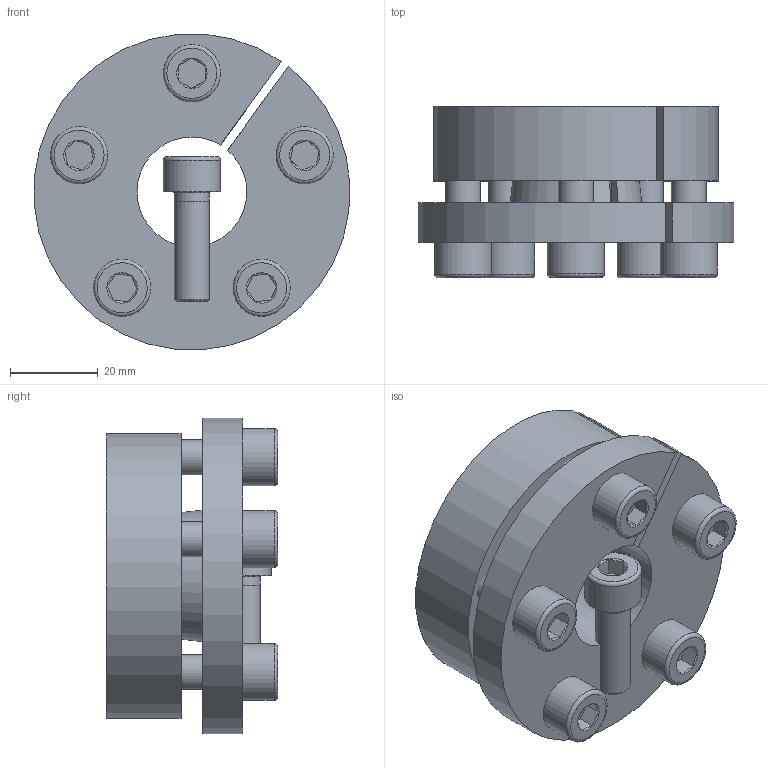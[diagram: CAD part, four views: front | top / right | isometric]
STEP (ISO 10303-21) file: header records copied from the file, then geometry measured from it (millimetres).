
FILE_DESCRIPTION( ( 'Unknown' ), '1' );
FILE_NAME( 'C:/Dokumente und Einstellungen/Sven/Desktop/15/KBS 15 - 25 x 65.stp', 'Unknown', ( 'Unknown' ), ( 'Unknown' ), 'XStep 1.0', 'Unknown', ' ' );
FILE_SCHEMA( ( 'automotive_design' ) );
Length unit declared in the file: millimetre
Products named in the file (3): Assem1; ISO EN DIN 4762 M8x25_8; KBS 15 - 25 x 65_0
Bounding box: 71.85 x 39 x 71.81 mm (x, y, z)
Volume: 161633 mm3; surface area: 55353.2 mm2
Topology: 8 solids, 8 shells, 194 faces, 404 edges, 250 vertices
Faces by surface type: plane 86, cylinder 50, cone 46, torus 12
Full cylindrical faces by diameter (mm): 6.647 x10, 7 x6, 8 x12, 9 x10, 13 x6
Entity records: 1524 total; most frequent: CARTESIAN_POINT 256, DIRECTION 230, ORIENTED_EDGE 170, AXIS2_PLACEMENT_3D 101, EDGE_LOOP 88, EDGE_CURVE 85, FACE_OUTER_BOUND 63, VERTEX_POINT 63
